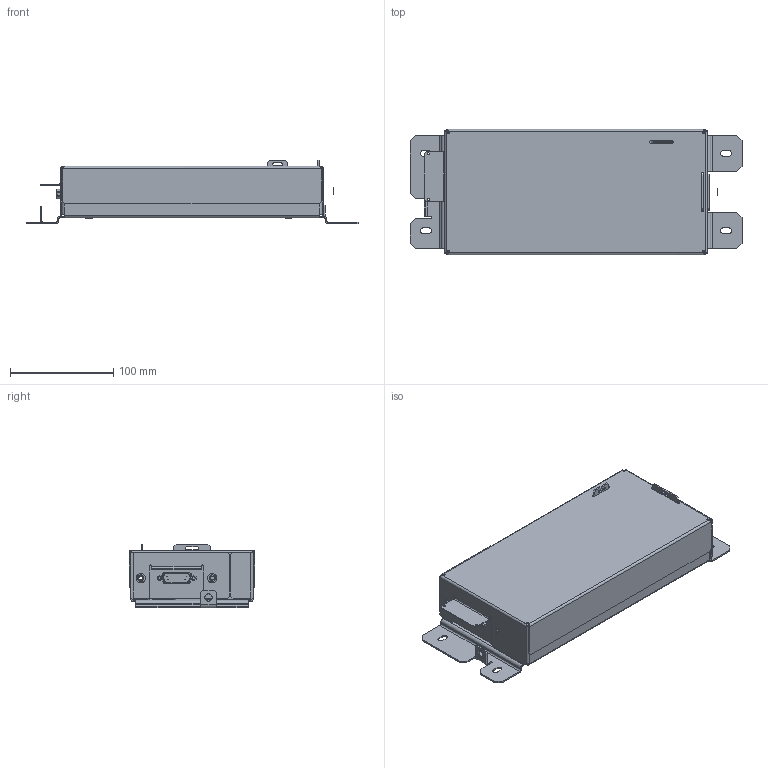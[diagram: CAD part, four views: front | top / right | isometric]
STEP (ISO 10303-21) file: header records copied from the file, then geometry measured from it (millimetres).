
FILE_DESCRIPTION(('Creo Elements/Direct Modeling STEP Export'),'2;1');
FILE_NAME('ITC_2000_electronic_blackbox.stp','2014-07-22T11:42:43',(''),(''),'Creo Elements/Direct Modeling STEP processor for AP214 (Solid Model)','Creo Elements/Direct Modeling 17.0E 05-Feb-2012 (C) Parametric Technology GmbH','');
FILE_SCHEMA(('AUTOMOTIVE_DESIGN { 1 0 10303 214 1 1 1 1 }'));
Length unit declared in the file: millimetre
Products named in the file (17): INSERT_M4_FH4-M4-12a; INSERT_M4_FH4-M4-12a.1; KVT_BLIND_SCREW_M4_TUBTARA_M4HUT_FEKS2; KVT_BLIND_SCREW_M4_TUBTARA_M4HUT_FEKS2a; KVT_BLIND_SCREW_M4_TUBTARA_M4HUT_FEKS2b; KVT_BLIND_SCREW_M4_TUBTARA_M4HUT_FEKS2c; SHEET_BASE.FOR_DSUB.1.2.1; SHEET_BASE.FOR_DSUB.1.2.1.1; WELDING_SPACER_KVT_KN246_M3X4.5_8; WELDING_SPACER_KVT_KN246_M3X4.5_8.1; WELDING_SPACER_KVT_KN246_M3X4.5_8.1.1; WELDING_SPACER_KVT_KN246_M3X4.5_8.1.1.1
Assembly tree (12 placements, depth 2):
  INSERT_M4_FH4-M4-12a
    INSERT_M4_FH4-M4-12a
  INSERT_M4_FH4-M4-12a.1
    INSERT_M4_FH4-M4-12a
  KVT_BLIND_SCREW_M4_TUBTARA_M4HUT_FEKS2
    KVT_BLIND_SCREW_M4_TUBTARA_M4HUT_FEKS2
  KVT_BLIND_SCREW_M4_TUBTARA_M4HUT_FEKS2a
    KVT_BLIND_SCREW_M4_TUBTARA_M4HUT_FEKS2
  KVT_BLIND_SCREW_M4_TUBTARA_M4HUT_FEKS2b
    KVT_BLIND_SCREW_M4_TUBTARA_M4HUT_FEKS2
Bounding box: 322.19 x 121.5 x 61.91 mm (x, y, z)
Volume: 165639.2 mm3; surface area: 262238.8 mm2
Topology: 12 solids, 12 shells, 724 faces, 1963 edges, 1293 vertices
Faces by surface type: plane 434, cylinder 221, cone 44, bspline 20, extrusion 3, torus 2
Entity records: 30233 total; most frequent: CARTESIAN_POINT 13502, ORIENTED_EDGE 3310, DIRECTION 2997, EDGE_CURVE 1655, VECTOR 1109, LINE 1108, VERTEX_POINT 1090, AXIS2_PLACEMENT_3D 944
